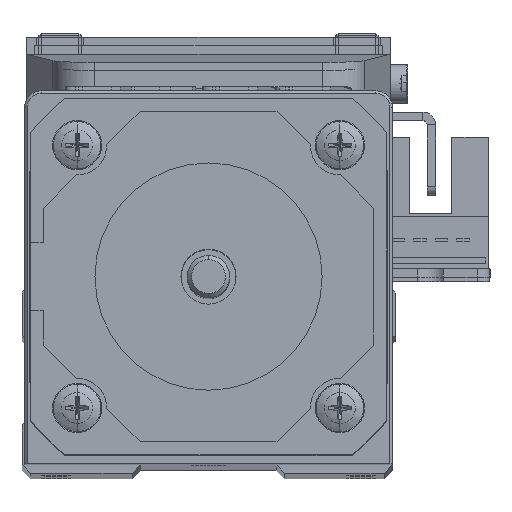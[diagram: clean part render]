
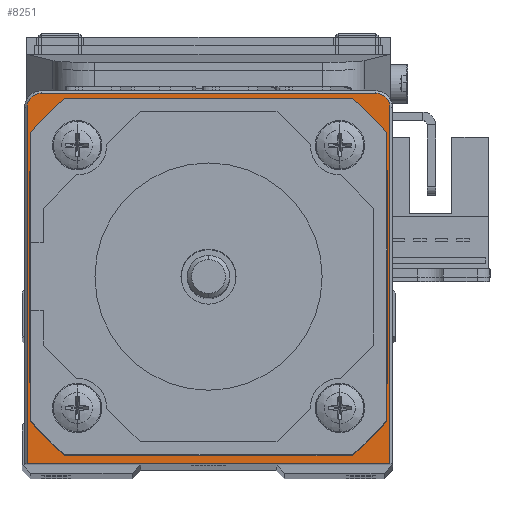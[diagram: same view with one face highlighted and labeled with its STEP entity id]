
A CAD part, top view. The second image highlights one B-rep face of the part: STEP entity #8251.
In plain terms, the highlighted planar face has unit normal (0, 0, 1).
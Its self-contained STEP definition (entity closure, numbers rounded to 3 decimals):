
#1015 = ORIENTED_EDGE ( 'NONE', *, *, #19421, .T. ) ;
#1464 = EDGE_CURVE ( 'NONE', #5617, #60504, #39237, .T. ) ;
#2488 = DIRECTION ( 'NONE',  ( 1., 0., 0. ) ) ;
#2985 = DIRECTION ( 'NONE',  ( -1., 0., 0. ) ) ;
#4056 = CARTESIAN_POINT ( 'NONE',  ( 21.4, 20., 26.5 ) ) ;
#4332 = AXIS2_PLACEMENT_3D ( 'NONE', #12360, #35628, #58952 ) ;
#5617 = VERTEX_POINT ( 'NONE', #70072 ) ;
#7045 = ORIENTED_EDGE ( 'NONE', *, *, #36908, .T. ) ;
#7577 = ORIENTED_EDGE ( 'NONE', *, *, #54349, .F. ) ;
#7973 = VERTEX_POINT ( 'NONE', #30964 ) ;
#8251 = ADVANCED_FACE ( 'NONE', ( #43021, #66309 ), #14019, .T. ) ;
#8273 = DIRECTION ( 'NONE',  ( 1., 0., 0. ) ) ;
#8760 = AXIS2_PLACEMENT_3D ( 'NONE', #71186, #18884, #42161 ) ;
#9076 = CARTESIAN_POINT ( 'NONE',  ( -21.4, 20., 26.5 ) ) ;
#10259 = DIRECTION ( 'NONE',  ( 1., 0., 0. ) ) ;
#11230 = VECTOR ( 'NONE', #2985, 1000. ) ;
#12360 = CARTESIAN_POINT ( 'NONE',  ( -19.7, 20., 26.5 ) ) ;
#14019 = PLANE ( 'NONE',  #59563 ) ;
#14746 = LINE ( 'NONE', #38007, #53565 ) ;
#14795 = VERTEX_POINT ( 'NONE', #9076 ) ;
#15727 = DIRECTION ( 'NONE',  ( 0., 0., 1. ) ) ;
#15833 = EDGE_CURVE ( 'NONE', #73330, #7973, #69802, .T. ) ;
#16502 = EDGE_CURVE ( 'NONE', #14795, #5617, #26035, .T. ) ;
#18884 = DIRECTION ( 'NONE',  ( 0., 0., 1. ) ) ;
#19421 = EDGE_CURVE ( 'NONE', #22191, #14795, #27460, .T. ) ;
#19581 = ORIENTED_EDGE ( 'NONE', *, *, #63995, .T. ) ;
#22191 = VERTEX_POINT ( 'NONE', #47181 ) ;
#24653 = ORIENTED_EDGE ( 'NONE', *, *, #15833, .F. ) ;
#24899 = CARTESIAN_POINT ( 'NONE',  ( 19.7, 21.7, 26.5 ) ) ;
#25849 = CIRCLE ( 'NONE', #68536, 1.7 ) ;
#26035 = LINE ( 'NONE', #49334, #57564 ) ;
#27460 = CIRCLE ( 'NONE', #4332, 1.7 ) ;
#30964 = CARTESIAN_POINT ( 'NONE',  ( -10., 0., 26.5 ) ) ;
#31007 = CARTESIAN_POINT ( 'NONE',  ( 10., 0., 26.5 ) ) ;
#31458 = CARTESIAN_POINT ( 'NONE',  ( 19.7, 20., 26.5 ) ) ;
#31966 = LINE ( 'NONE', #55295, #11230 ) ;
#35628 = DIRECTION ( 'NONE',  ( 0., 0., 1. ) ) ;
#36878 = AXIS2_PLACEMENT_3D ( 'NONE', #68015, #15727, #39013 ) ;
#36908 = EDGE_CURVE ( 'NONE', #60504, #51457, #14746, .T. ) ;
#37270 = CARTESIAN_POINT ( 'NONE',  ( 0., 0., 26.5 ) ) ;
#38006 = VERTEX_POINT ( 'NONE', #24899 ) ;
#38007 = CARTESIAN_POINT ( 'NONE',  ( 21.4, 20., 26.5 ) ) ;
#39013 = DIRECTION ( 'NONE',  ( 1., 0., 0. ) ) ;
#39237 = LINE ( 'NONE', #62544, #43705 ) ;
#39667 = EDGE_LOOP ( 'NONE', ( #7577, #24653 ) ) ;
#41646 = CIRCLE ( 'NONE', #8760, 10. ) ;
#42161 = DIRECTION ( 'NONE',  ( 1., 0., 0. ) ) ;
#43021 = FACE_OUTER_BOUND ( 'NONE', #53435, .T. ) ;
#43705 = VECTOR ( 'NONE', #10259, 1000. ) ;
#47181 = CARTESIAN_POINT ( 'NONE',  ( -19.7, 21.7, 26.5 ) ) ;
#49334 = CARTESIAN_POINT ( 'NONE',  ( -21.4, -22., 26.5 ) ) ;
#51457 = VERTEX_POINT ( 'NONE', #4056 ) ;
#53435 = EDGE_LOOP ( 'NONE', ( #59908, #7045, #64134, #19581, #1015, #58436 ) ) ;
#53565 = VECTOR ( 'NONE', #61336, 1000. ) ;
#54349 = EDGE_CURVE ( 'NONE', #7973, #73330, #41646, .T. ) ;
#54772 = DIRECTION ( 'NONE',  ( 0., 0., 1. ) ) ;
#55295 = CARTESIAN_POINT ( 'NONE',  ( -19.7, 21.7, 26.5 ) ) ;
#55761 = EDGE_CURVE ( 'NONE', #51457, #38006, #25849, .T. ) ;
#57564 = VECTOR ( 'NONE', #72595, 1000. ) ;
#58436 = ORIENTED_EDGE ( 'NONE', *, *, #16502, .T. ) ;
#58952 = DIRECTION ( 'NONE',  ( 1., 0., 0. ) ) ;
#59563 = AXIS2_PLACEMENT_3D ( 'NONE', #37270, #60585, #8273 ) ;
#59908 = ORIENTED_EDGE ( 'NONE', *, *, #1464, .T. ) ;
#60504 = VERTEX_POINT ( 'NONE', #68098 ) ;
#60585 = DIRECTION ( 'NONE',  ( 0., 0., 1. ) ) ;
#61336 = DIRECTION ( 'NONE',  ( 0., 1., 0. ) ) ;
#62544 = CARTESIAN_POINT ( 'NONE',  ( -21.7, -22., 26.5 ) ) ;
#63995 = EDGE_CURVE ( 'NONE', #38006, #22191, #31966, .T. ) ;
#64134 = ORIENTED_EDGE ( 'NONE', *, *, #55761, .T. ) ;
#66309 = FACE_BOUND ( 'NONE', #39667, .T. ) ;
#68015 = CARTESIAN_POINT ( 'NONE',  ( 0., 0., 26.5 ) ) ;
#68098 = CARTESIAN_POINT ( 'NONE',  ( 21.4, -22., 26.5 ) ) ;
#68536 = AXIS2_PLACEMENT_3D ( 'NONE', #31458, #54772, #2488 ) ;
#69802 = CIRCLE ( 'NONE', #36878, 10. ) ;
#70072 = CARTESIAN_POINT ( 'NONE',  ( -21.4, -22., 26.5 ) ) ;
#71186 = CARTESIAN_POINT ( 'NONE',  ( 0., 0., 26.5 ) ) ;
#72595 = DIRECTION ( 'NONE',  ( 0., -1., 0. ) ) ;
#73330 = VERTEX_POINT ( 'NONE', #31007 ) ;
